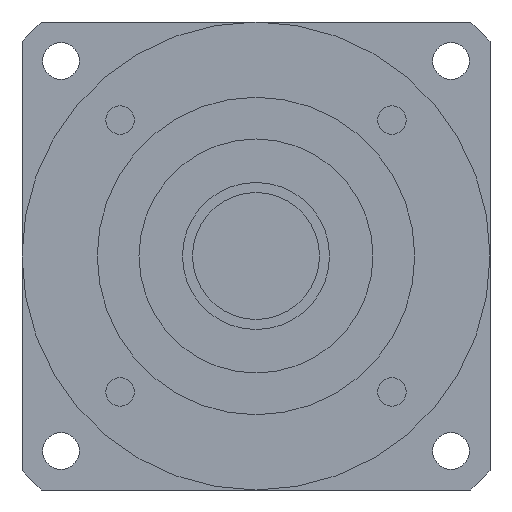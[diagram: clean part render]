
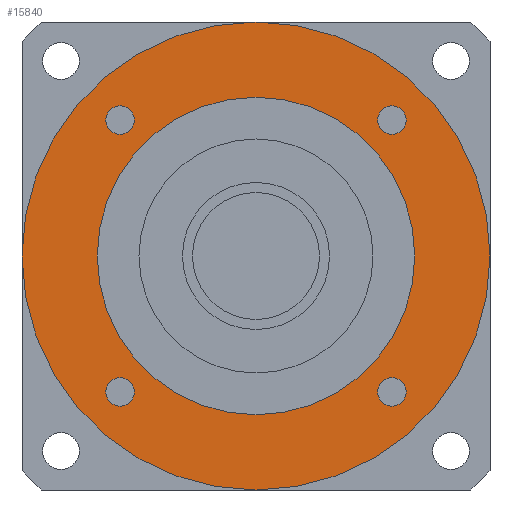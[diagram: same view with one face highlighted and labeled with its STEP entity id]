
A CAD part, left-side view. The second image highlights one B-rep face of the part: STEP entity #15840.
In plain terms, the highlighted planar face has unit normal (-1, 0, 0) as drawn and (0, 0, -1) by its records, which use the part's own axes.
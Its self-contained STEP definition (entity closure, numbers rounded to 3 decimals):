
#14680=CARTESIAN_POINT('',(-70.,0.,-84.701));
#14690=VERTEX_POINT('',#14680);
#14720=CARTESIAN_POINT('',(0.,0.,
-84.701));
#14730=DIRECTION('',(0.,0.,-1.));
#14740=DIRECTION('',(0.,-1.,0.));
#14750=AXIS2_PLACEMENT_3D('',#14720,#14730,#14740);
#14760=CIRCLE('',#14750,70.);
#14770=CARTESIAN_POINT('',(70.,0.,-84.701));
#14780=VERTEX_POINT('',#14770);
#14790=EDGE_CURVE('',#14690,#14780,#14760,.T.);
#14910=CARTESIAN_POINT('',(0.,0.,
-84.701));
#14920=DIRECTION('',(0.,0.,-1.));
#14930=DIRECTION('',(1.,0.,0.));
#14940=AXIS2_PLACEMENT_3D('',#14910,#14920,#14930);
#14950=PLANE('',#14940);
#14960=CARTESIAN_POINT('',(40.659,40.659,-84.701));
#14970=DIRECTION('',(0.,0.,-1.));
#14980=DIRECTION('',(0.,1.,0.));
#14990=AXIS2_PLACEMENT_3D('',#14960,#14970,#14980);
#15000=CIRCLE('',#14990,4.25);
#15010=CARTESIAN_POINT('',(40.659,44.909,-84.701));
#15020=VERTEX_POINT('',#15010);
#15030=CARTESIAN_POINT('',(40.659,36.409,-84.701));
#15040=VERTEX_POINT('',#15030);
#15050=EDGE_CURVE('',#15020,#15040,#15000,.T.);
#15060=ORIENTED_EDGE('',*,*,#15050,.F.);
#15070=EDGE_CURVE('',#15040,#15020,#15000,.T.);
#15080=ORIENTED_EDGE('',*,*,#15070,.F.);
#15090=EDGE_LOOP('',(#15080,#15060));
#15100=FACE_BOUND('',#15090,.T.);
#15110=CARTESIAN_POINT('',(-40.659,40.659,-84.701));
#15120=DIRECTION('',(0.,0.,-1.));
#15130=DIRECTION('',(-1.,0.,0.));
#15140=AXIS2_PLACEMENT_3D('',#15110,#15120,#15130);
#15150=CIRCLE('',#15140,4.25);
#15160=CARTESIAN_POINT('',(-44.909,40.659,-84.701));
#15170=VERTEX_POINT('',#15160);
#15180=CARTESIAN_POINT('',(-36.409,40.659,-84.701));
#15190=VERTEX_POINT('',#15180);
#15200=EDGE_CURVE('',#15170,#15190,#15150,.T.);
#15210=ORIENTED_EDGE('',*,*,#15200,.F.);
#15220=EDGE_CURVE('',#15190,#15170,#15150,.T.);
#15230=ORIENTED_EDGE('',*,*,#15220,.F.);
#15240=EDGE_LOOP('',(#15230,#15210));
#15250=FACE_BOUND('',#15240,.T.);
#15260=CARTESIAN_POINT('',(-40.659,-40.659,-84.701))
;
#15270=DIRECTION('',(0.,0.,-1.));
#15280=DIRECTION('',(0.,-1.,0.));
#15290=AXIS2_PLACEMENT_3D('',#15260,#15270,#15280);
#15300=CIRCLE('',#15290,4.25);
#15310=CARTESIAN_POINT('',(-40.659,-44.909,-84.701))
;
#15320=VERTEX_POINT('',#15310);
#15330=CARTESIAN_POINT('',(-40.659,-36.409,-84.701))
;
#15340=VERTEX_POINT('',#15330);
#15350=EDGE_CURVE('',#15320,#15340,#15300,.T.);
#15360=ORIENTED_EDGE('',*,*,#15350,.F.);
#15370=EDGE_CURVE('',#15340,#15320,#15300,.T.);
#15380=ORIENTED_EDGE('',*,*,#15370,.F.);
#15390=EDGE_LOOP('',(#15380,#15360));
#15400=FACE_BOUND('',#15390,.T.);
#15410=CARTESIAN_POINT('',(0.,0.,
-84.701));
#15420=DIRECTION('',(0.,0.,1.));
#15430=DIRECTION('',(0.,1.,0.));
#15440=AXIS2_PLACEMENT_3D('',#15410,#15420,#15430);
#15450=CIRCLE('',#15440,47.5);
#15460=CARTESIAN_POINT('',(-47.5,0.,-84.701));
#15470=VERTEX_POINT('',#15460);
#15480=CARTESIAN_POINT('',(47.5,0.,-84.701));
#15490=VERTEX_POINT('',#15480);
#15500=EDGE_CURVE('',#15470,#15490,#15450,.T.);
#15510=ORIENTED_EDGE('',*,*,#15500,.T.);
#15520=CARTESIAN_POINT('',(0.,47.5,-84.701));
#15530=VERTEX_POINT('',#15520);
#15540=EDGE_CURVE('',#15530,#15470,#15450,.T.);
#15550=ORIENTED_EDGE('',*,*,#15540,.T.);
#15560=EDGE_CURVE('',#15490,#15530,#15450,.T.);
#15570=ORIENTED_EDGE('',*,*,#15560,.T.);
#15580=EDGE_LOOP('',(#15570,#15550,#15510));
#15590=FACE_BOUND('',#15580,.T.);
#15600=CARTESIAN_POINT('',(40.659,-40.659,-84.701));
#15610=DIRECTION('',(0.,0.,-1.));
#15620=DIRECTION('',(1.,0.,0.));
#15630=AXIS2_PLACEMENT_3D('',#15600,#15610,#15620);
#15640=CIRCLE('',#15630,4.25);
#15650=CARTESIAN_POINT('',(44.909,-40.659,-84.701));
#15660=VERTEX_POINT('',#15650);
#15670=CARTESIAN_POINT('',(36.409,-40.659,-84.701));
#15680=VERTEX_POINT('',#15670);
#15690=EDGE_CURVE('',#15660,#15680,#15640,.T.);
#15700=ORIENTED_EDGE('',*,*,#15690,.F.);
#15710=EDGE_CURVE('',#15680,#15660,#15640,.T.);
#15720=ORIENTED_EDGE('',*,*,#15710,.F.);
#15730=EDGE_LOOP('',(#15720,#15700));
#15740=FACE_BOUND('',#15730,.T.);
#15750=ORIENTED_EDGE('',*,*,#14790,.T.);
#15760=CARTESIAN_POINT('',(0.,-70.,-84.701));
#15770=VERTEX_POINT('',#15760);
#15780=EDGE_CURVE('',#15770,#14690,#14760,.T.);
#15790=ORIENTED_EDGE('',*,*,#15780,.T.);
#15800=EDGE_CURVE('',#14780,#15770,#14760,.T.);
#15810=ORIENTED_EDGE('',*,*,#15800,.T.);
#15820=EDGE_LOOP('',(#15810,#15790,#15750));
#15830=FACE_OUTER_BOUND('',#15820,.T.);
#15840=ADVANCED_FACE('',(#15100,#15250,#15400,#15590,#15740,#15830),
#14950,.T.);
